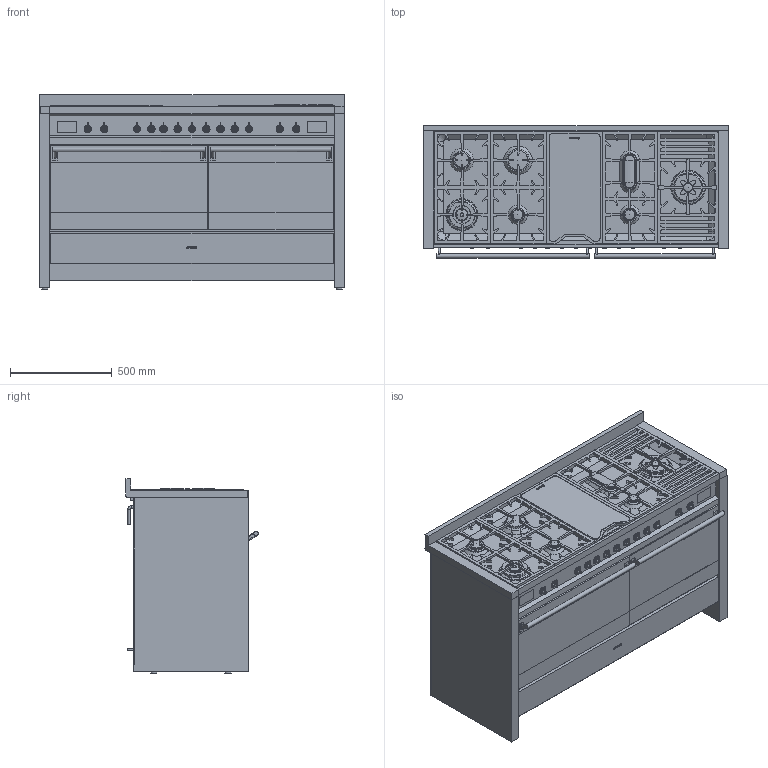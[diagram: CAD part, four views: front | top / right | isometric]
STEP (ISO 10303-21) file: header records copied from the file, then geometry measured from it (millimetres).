
FILE_DESCRIPTION(/* description */ (''),/* implementation_level */ '2;1');
FILE_NAME(/* name */ 'cucina a5-81.stp',/* time_stamp */ '2019-10-07T18:03:36+02:00',/* author */ (''),/* organization */ (''),/* preprocessor_version */ 'ST-DEVELOPER v16',/* originating_system */ 'SIEMENS PLM Software NX 11.0',/* authorisation */ '');
FILE_SCHEMA (('AUTOMOTIVE_DESIGN { 1 0 10303 214 3 1 1 1 }'));
Length unit declared in the file: millimetre
Products named in the file (1): Mart201CAEE3zrv5
Bounding box: 1498 x 651 x 956.1 mm (x, y, z)
Volume: 102535163.1 mm3; surface area: 13078897.8 mm2
Topology: 65 solids, 65 shells, 1601 faces, 4121 edges, 2701 vertices
Faces by surface type: plane 846, cylinder 488, torus 94, extrusion 79, cone 76, bspline 12, sphere 4, revolution 2
Full cylindrical faces by diameter (mm): 4.3 x2, 4.363 x4, 4.608 x6, 6 x13, 10 x1, 14 x2, 14.996 x13, 17 x13, 22 x2, 24 x13, 28 x1, 30 x4, 41.926 x1, 44.881 x1, 55 x2, 60.611 x1, 65.5 x2, 75 x1, 85.5 x1, 85.7 x1, 100 x1, 110.5 x1, 131 x1, 140 x1, 147 x1, 162 x1
Entity records: 49722 total; most frequent: CARTESIAN_POINT 10804, DIRECTION 7931, ORIENTED_EDGE 7660, EDGE_CURVE 3830, AXIS2_PLACEMENT_3D 2736, VERTEX_POINT 2654, VECTOR 2457, LINE 2378
